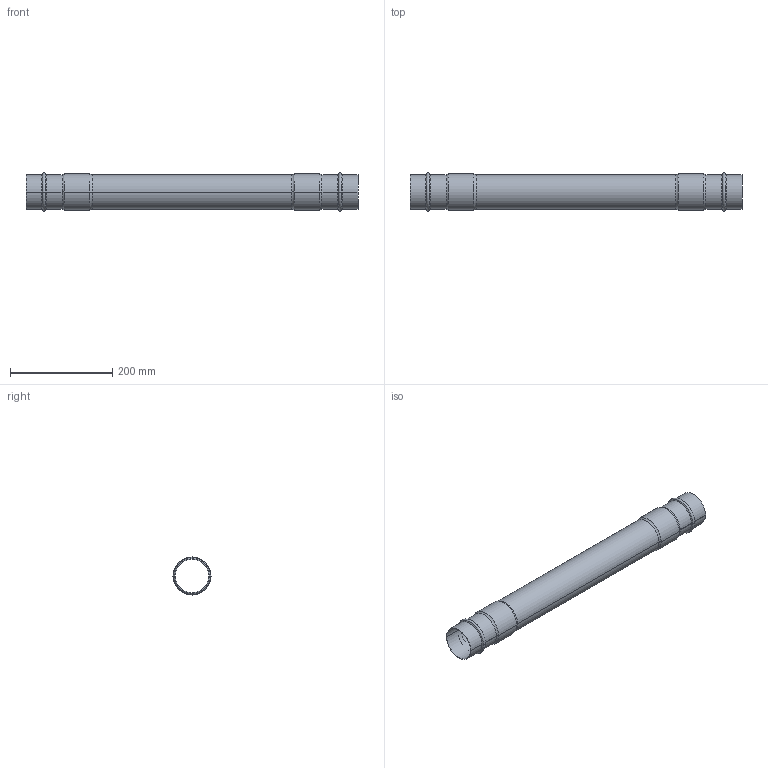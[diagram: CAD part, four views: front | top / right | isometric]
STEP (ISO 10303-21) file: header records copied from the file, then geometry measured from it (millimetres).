
FILE_DESCRIPTION((''),'2;1');
FILE_NAME('2016605500','2017-05-12T',('Administrator'),(''),'PRO/ENGINEER BY PARAMETRIC TECHNOLOGY CORPORATION, 2009360','PRO/ENGINEER BY PARAMETRIC TECHNOLOGY CORPORATION, 2009360','');
FILE_SCHEMA(('AUTOMOTIVE_DESIGN_CC2 { 1 2 10303 214 -1 1 5 2 }'));
Length unit declared in the file: millimetre
Products named in the file (1): 2016605500
Bounding box: 650 x 74.48 x 74.48 mm (x, y, z)
Volume: 190951.4 mm3; surface area: 275411.3 mm2
Topology: 1 solids, 1 shells, 38 faces, 76 edges, 40 vertices
Faces by surface type: cylinder 16, torus 12, cone 8, plane 2
Entity records: 1239 total; most frequent: DIRECTION 204, CARTESIAN_POINT 154, ORIENTED_EDGE 152, AXIS2_PLACEMENT_3D 90, PRESENTATION_STYLE_ASSIGNMENT 77, STYLED_ITEM 77, CURVE_STYLE 76, EDGE_CURVE 76
